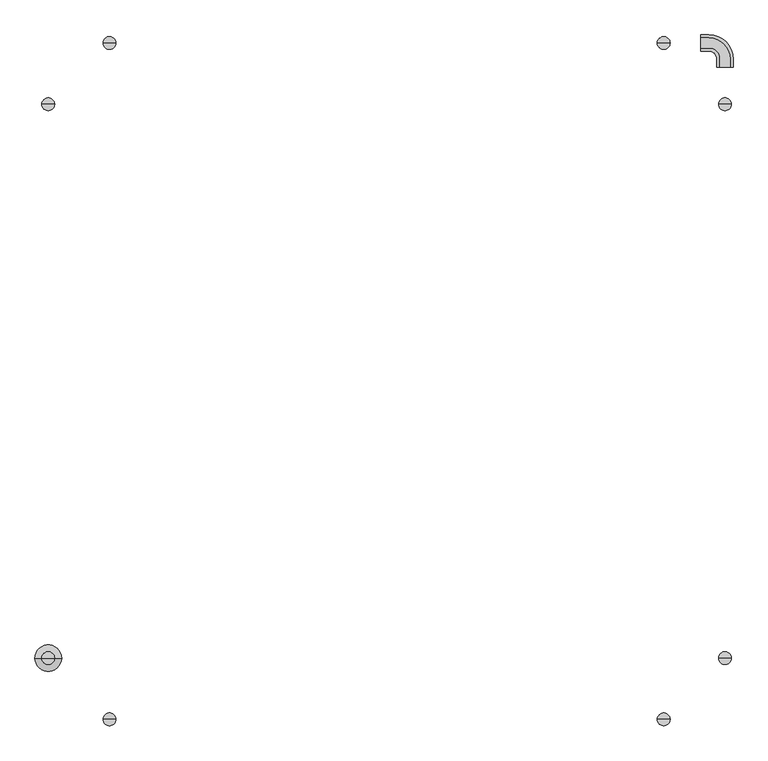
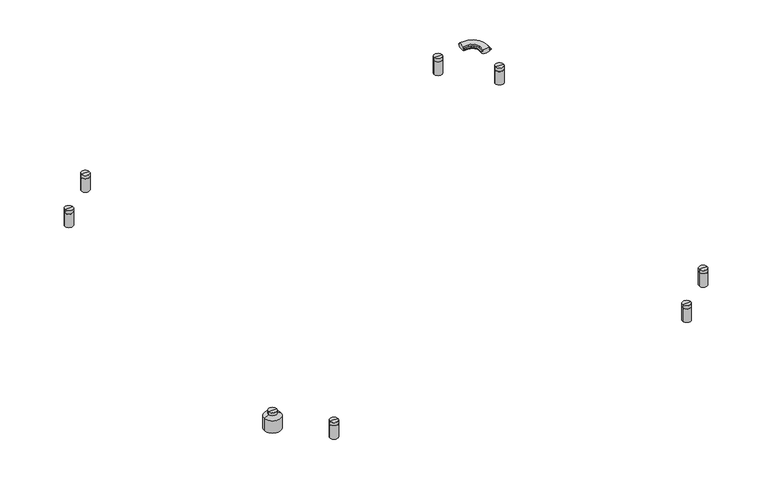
"""IFC4 building model written with IfcOpenShell, lengths in millimetres: light fixture geometry, ARTEMIDE-AoL-StandAlone-SquareRectangular_WallCeiling : StandALone_SemiRecessed_SquareRectangular-1321x1321mm 9488lm 3000K."""

from ifc_helpers import new_model, si_unit, point, frame, origin, place, context, project, spatial, polyline, circle_curve, ellipse_curve, trimmed, source, transform, mapped, element, save
from ifc_brep_helpers import plane_surface, cylinder_surface, revolved_surface, advanced_brep


def light_fixture_f52f7826(model_context):
    return source(origin(), model_context, "Body", "AdvancedBrep", [
        advanced_brep(
        [(25.0, 0.0, 54.0), (37.0, 0.0, 54.0), (13.0, 0.0, 54.0), (0.0, 0.0, 0.0), (50.0, 0.0, 0.0), (25.0, 0.0, 0.0), (0.0, 0.0, 37.5120373), (50.0, 0.0, 37.5120373), (13.0, 0.0, 44.4453706), (37.0, 0.0, 44.4453706)],
        [
            (0, 1),
            (1, 2, circle_curve(frame((25.0, 0.0, 54.0), z_axis=(0.0, 0.0, 1.0), x_axis=(1.0, 0.0, 0.0)), 12.0)),
            (2, 0),
            (2, 1, circle_curve(frame((25.0, 0.0, 54.0), z_axis=(0.0, 0.0, 1.0), x_axis=(1.0, 0.0, 0.0)), 12.0)),
            (3, 4, circle_curve(frame((25.0, 0.0, 0.0), z_axis=(0.0, 0.0, -1.0), x_axis=(1.0, 0.0, 0.0)), 25.0)),
            (4, 5),
            (5, 3),
            (4, 3, circle_curve(frame((25.0, 0.0, 0.0), z_axis=(0.0, 0.0, -1.0), x_axis=(1.0, 0.0, 0.0)), 25.0)),
            (6, 7, circle_curve(frame((25.0, 0.0, 37.5120373), z_axis=(0.0, 0.0, -1.0), x_axis=(1.0, 0.0, 0.0)), 25.0)),
            (7, 4),
            (3, 6),
            (7, 6, circle_curve(frame((25.0, 0.0, 37.5120373), z_axis=(0.0, 0.0, -1.0), x_axis=(1.0, 0.0, 0.0)), 25.0)),
            (8, 9, circle_curve(frame((25.0, 0.0, 44.4453706), z_axis=(0.0, 0.0, -1.0), x_axis=(1.0, 0.0, 0.0)), 12.0)),
            (9, 7),
            (6, 8),
            (9, 8, circle_curve(frame((25.0, 0.0, 44.4453706), z_axis=(0.0, 0.0, -1.0), x_axis=(1.0, 0.0, 0.0)), 12.0)),
            (1, 9),
            (8, 2),
        ],
        [
            plane_surface(frame((25.0, 0.0, 54.0), z_axis=(0.0, 0.0, 1.0), x_axis=(1.0, 0.0, 0.0))),
            plane_surface(frame((25.0, 0.0, 0.0), z_axis=(0.0, 0.0, -1.0), x_axis=(1.0, 0.0, 0.0))),
            cylinder_surface(frame((25.0, 0.0, -58.83358), z_axis=(0.0, 0.0, 1.0), x_axis=(1.0, 0.0, 0.0)), 25.0),
            revolved_surface(polyline([(50.0, 0.0, 37.5120373), (37.0, 0.0, 44.4453706)]), (25.0, 0.0, -58.83358), (0.0, 0.0, 1.0)),
            cylinder_surface(frame((25.0, 0.0, -58.83358), z_axis=(0.0, 0.0, 1.0), x_axis=(1.0, 0.0, 0.0)), 12.0),
        ],
        [
            (0, [[1, 2, 3]]),
            (0, [[-3, 4, -1]]),
            (1, [[5, 6, 7]]),
            (1, [[8, -7, -6]]),
            (2, [[9, 10, -5, 11]]),
            (2, [[12, -11, -8, -10]]),
            (3, [[13, 14, -9, 15]]),
            (3, [[16, -15, -12, -14]]),
            (4, [[-2, 17, -13, 18]]),
            (4, [[-4, -18, -16, -17]]),
        ],
    ),
        advanced_brep(
        [(152.0, 1156.0, 1.0), (128.0, 1156.0, 1.0), (134.5, 1156.0, 1.0), (145.5, 1156.0, 1.0), (152.0, 1156.0, 42.5), (128.0, 1156.0, 42.5), (149.5243756, 1156.0, 42.5), (130.4756244, 1156.0, 42.5), (149.5243756, 1156.0, 43.4995055), (130.4756244, 1156.0, 43.4995055), (152.0, 1156.0, 43.4995055), (128.0, 1156.0, 43.4995055), (152.0, 1156.0, 52.9579379), (128.0, 1156.0, 52.9579379), (140.0, 1156.0, 52.9579379), (145.5, 1156.0, 0.0), (134.5, 1156.0, 0.0), (140.0, 1156.0, 0.0)],
        [
            (0, 1, circle_curve(frame((140.0, 1156.0, 1.0), z_axis=(0.0, 0.0, -1.0), x_axis=(-1.0, 0.0, 0.0)), 12.0)),
            (1, 2),
            (2, 3, circle_curve(frame((140.0, 1156.0, 1.0), z_axis=(0.0, 0.0, 1.0), x_axis=(-1.0, 0.0, 0.0)), 5.5)),
            (3, 0),
            (1, 0, circle_curve(frame((140.0, 1156.0, 1.0), z_axis=(0.0, 0.0, -1.0), x_axis=(-1.0, 0.0, 0.0)), 12.0)),
            (3, 2, circle_curve(frame((140.0, 1156.0, 1.0), z_axis=(0.0, 0.0, 1.0), x_axis=(-1.0, 0.0, 0.0)), 5.5)),
            (4, 5, circle_curve(frame((140.0, 1156.0, 42.5), z_axis=(0.0, 0.0, -1.0), x_axis=(-1.0, 0.0, 0.0)), 12.0)),
            (5, 1),
            (0, 4),
            (5, 4, circle_curve(frame((140.0, 1156.0, 42.5), z_axis=(0.0, 0.0, -1.0), x_axis=(-1.0, 0.0, 0.0)), 12.0)),
            (6, 7, circle_curve(frame((140.0, 1156.0, 42.5), z_axis=(0.0, 0.0, -1.0), x_axis=(-1.0, 0.0, 0.0)), 9.5243756)),
            (7, 5),
            (4, 6),
            (7, 6, circle_curve(frame((140.0, 1156.0, 42.5), z_axis=(0.0, 0.0, -1.0), x_axis=(-1.0, 0.0, 0.0)), 9.5243756)),
            (8, 9, circle_curve(frame((140.0, 1156.0, 43.4995055), z_axis=(0.0, 0.0, -1.0), x_axis=(-1.0, 0.0, 0.0)), 9.5243756)),
            (9, 7),
            (6, 8),
            (9, 8, circle_curve(frame((140.0, 1156.0, 43.4995055), z_axis=(0.0, 0.0, -1.0), x_axis=(-1.0, 0.0, 0.0)), 9.5243756)),
            (10, 11, circle_curve(frame((140.0, 1156.0, 43.4995055), z_axis=(0.0, 0.0, -1.0), x_axis=(-1.0, 0.0, 0.0)), 12.0)),
            (11, 9),
            (8, 10),
            (11, 10, circle_curve(frame((140.0, 1156.0, 43.4995055), z_axis=(0.0, 0.0, -1.0), x_axis=(-1.0, 0.0, 0.0)), 12.0)),
            (12, 13, circle_curve(frame((140.0, 1156.0, 52.9579379), z_axis=(0.0, 0.0, -1.0), x_axis=(-1.0, 0.0, 0.0)), 12.0)),
            (13, 11),
            (10, 12),
            (13, 12, circle_curve(frame((140.0, 1156.0, 52.9579379), z_axis=(0.0, 0.0, -1.0), x_axis=(-1.0, 0.0, 0.0)), 12.0)),
            (14, 13),
            (12, 14),
            (15, 16, circle_curve(frame((140.0, 1156.0, 0.0), z_axis=(0.0, 0.0, -1.0), x_axis=(-1.0, 0.0, 0.0)), 5.5)),
            (16, 17),
            (17, 15),
            (16, 15, circle_curve(frame((140.0, 1156.0, 0.0), z_axis=(0.0, 0.0, -1.0), x_axis=(-1.0, 0.0, 0.0)), 5.5)),
            (2, 16),
            (15, 3),
        ],
        [
            plane_surface(frame((140.0, 1156.0, 1.0), z_axis=(0.0, 0.0, -1.0), x_axis=(-1.0, 0.0, 0.0))),
            cylinder_surface(frame((140.0, 1156.0, -58.83358), z_axis=(0.0, 0.0, 1.0), x_axis=(-1.0, 0.0, 0.0)), 12.0),
            plane_surface(frame((140.0, 1156.0, 42.5), z_axis=(0.0, 0.0, 1.0), x_axis=(-1.0, 0.0, 0.0))),
            cylinder_surface(frame((140.0, 1156.0, -58.83358), z_axis=(0.0, 0.0, 1.0), x_axis=(-1.0, 0.0, 0.0)), 9.5243756),
            plane_surface(frame((140.0, 1156.0, 43.4995055), z_axis=(0.0, 0.0, -1.0), x_axis=(-1.0, 0.0, 0.0))),
            plane_surface(frame((140.0, 1156.0, 52.9579379), z_axis=(0.0, 0.0, 1.0), x_axis=(-1.0, 0.0, 0.0))),
            plane_surface(frame((140.0, 1156.0, 0.0), z_axis=(0.0, 0.0, -1.0), x_axis=(-1.0, 0.0, 0.0))),
            cylinder_surface(frame((140.0, 1156.0, -58.83358), z_axis=(0.0, 0.0, 1.0), x_axis=(-1.0, 0.0, 0.0)), 5.5),
        ],
        [
            (0, [[1, 2, 3, 4]]),
            (0, [[5, -4, 6, -2]]),
            (1, [[7, 8, -1, 9]]),
            (1, [[10, -9, -5, -8]]),
            (2, [[11, 12, -7, 13]]),
            (2, [[14, -13, -10, -12]]),
            (3, [[15, 16, -11, 17]]),
            (3, [[18, -17, -14, -16]]),
            (4, [[19, 20, -15, 21]]),
            (4, [[22, -21, -18, -20]]),
            (1, [[23, 24, -19, 25]]),
            (1, [[26, -25, -22, -24]]),
            (5, [[27, -23, 28]]),
            (5, [[-28, -26, -27]]),
            (6, [[29, 30, 31]]),
            (6, [[32, -31, -30]]),
            (7, [[-3, 33, -29, 34]]),
            (7, [[-6, -34, -32, -33]]),
        ],
    ),
        advanced_brep(
        [(152.0, -115.0, 1.0), (128.0, -115.0, 1.0), (134.5, -115.0, 1.0), (145.5, -115.0, 1.0), (152.0, -115.0, 42.5), (128.0, -115.0, 42.5), (149.5243756, -115.0, 42.5), (130.4756244, -115.0, 42.5), (149.5243756, -115.0, 43.4995055), (130.4756244, -115.0, 43.4995055), (152.0, -115.0, 43.4995055), (128.0, -115.0, 43.4995055), (152.0, -115.0, 52.9579379), (128.0, -115.0, 52.9579379), (140.0, -115.0, 52.9579379), (145.5, -115.0, 0.0), (134.5, -115.0, 0.0), (140.0, -115.0, 0.0)],
        [
            (0, 1, circle_curve(frame((140.0, -115.0, 1.0), z_axis=(0.0, 0.0, -1.0), x_axis=(-1.0, 0.0, 0.0)), 12.0)),
            (1, 2),
            (2, 3, circle_curve(frame((140.0, -115.0, 1.0), z_axis=(0.0, 0.0, 1.0), x_axis=(-1.0, 0.0, 0.0)), 5.5)),
            (3, 0),
            (1, 0, circle_curve(frame((140.0, -115.0, 1.0), z_axis=(0.0, 0.0, -1.0), x_axis=(-1.0, 0.0, 0.0)), 12.0)),
            (3, 2, circle_curve(frame((140.0, -115.0, 1.0), z_axis=(0.0, 0.0, 1.0), x_axis=(-1.0, 0.0, 0.0)), 5.5)),
            (4, 5, circle_curve(frame((140.0, -115.0, 42.5), z_axis=(0.0, 0.0, -1.0), x_axis=(-1.0, 0.0, 0.0)), 12.0)),
            (5, 1),
            (0, 4),
            (5, 4, circle_curve(frame((140.0, -115.0, 42.5), z_axis=(0.0, 0.0, -1.0), x_axis=(-1.0, 0.0, 0.0)), 12.0)),
            (6, 7, circle_curve(frame((140.0, -115.0, 42.5), z_axis=(0.0, 0.0, -1.0), x_axis=(-1.0, 0.0, 0.0)), 9.5243756)),
            (7, 5),
            (4, 6),
            (7, 6, circle_curve(frame((140.0, -115.0, 42.5), z_axis=(0.0, 0.0, -1.0), x_axis=(-1.0, 0.0, 0.0)), 9.5243756)),
            (8, 9, circle_curve(frame((140.0, -115.0, 43.4995055), z_axis=(0.0, 0.0, -1.0), x_axis=(-1.0, 0.0, 0.0)), 9.5243756)),
            (9, 7),
            (6, 8),
            (9, 8, circle_curve(frame((140.0, -115.0, 43.4995055), z_axis=(0.0, 0.0, -1.0), x_axis=(-1.0, 0.0, 0.0)), 9.5243756)),
            (10, 11, circle_curve(frame((140.0, -115.0, 43.4995055), z_axis=(0.0, 0.0, -1.0), x_axis=(-1.0, 0.0, 0.0)), 12.0)),
            (11, 9),
            (8, 10),
            (11, 10, circle_curve(frame((140.0, -115.0, 43.4995055), z_axis=(0.0, 0.0, -1.0), x_axis=(-1.0, 0.0, 0.0)), 12.0)),
            (12, 13, circle_curve(frame((140.0, -115.0, 52.9579379), z_axis=(0.0, 0.0, -1.0), x_axis=(-1.0, 0.0, 0.0)), 12.0)),
            (13, 11),
            (10, 12),
            (13, 12, circle_curve(frame((140.0, -115.0, 52.9579379), z_axis=(0.0, 0.0, -1.0), x_axis=(-1.0, 0.0, 0.0)), 12.0)),
            (14, 13),
            (12, 14),
            (15, 16, circle_curve(frame((140.0, -115.0, 0.0), z_axis=(0.0, 0.0, -1.0), x_axis=(-1.0, 0.0, 0.0)), 5.5)),
            (16, 17),
            (17, 15),
            (16, 15, circle_curve(frame((140.0, -115.0, 0.0), z_axis=(0.0, 0.0, -1.0), x_axis=(-1.0, 0.0, 0.0)), 5.5)),
            (2, 16),
            (15, 3),
        ],
        [
            plane_surface(frame((140.0, -115.0, 1.0), z_axis=(0.0, 0.0, -1.0), x_axis=(-1.0, 0.0, 0.0))),
            cylinder_surface(frame((140.0, -115.0, -58.83358), z_axis=(0.0, 0.0, 1.0), x_axis=(-1.0, 0.0, 0.0)), 12.0),
            plane_surface(frame((140.0, -115.0, 42.5), z_axis=(0.0, 0.0, 1.0), x_axis=(-1.0, 0.0, 0.0))),
            cylinder_surface(frame((140.0, -115.0, -58.83358), z_axis=(0.0, 0.0, 1.0), x_axis=(-1.0, 0.0, 0.0)), 9.5243756),
            plane_surface(frame((140.0, -115.0, 43.4995055), z_axis=(0.0, 0.0, -1.0), x_axis=(-1.0, 0.0, 0.0))),
            plane_surface(frame((140.0, -115.0, 52.9579379), z_axis=(0.0, 0.0, 1.0), x_axis=(-1.0, 0.0, 0.0))),
            plane_surface(frame((140.0, -115.0, 0.0), z_axis=(0.0, 0.0, -1.0), x_axis=(-1.0, 0.0, 0.0))),
            cylinder_surface(frame((140.0, -115.0, -58.83358), z_axis=(0.0, 0.0, 1.0), x_axis=(-1.0, 0.0, 0.0)), 5.5),
        ],
        [
            (0, [[1, 2, 3, 4]]),
            (0, [[5, -4, 6, -2]]),
            (1, [[7, 8, -1, 9]]),
            (1, [[10, -9, -5, -8]]),
            (2, [[11, 12, -7, 13]]),
            (2, [[14, -13, -10, -12]]),
            (3, [[15, 16, -11, 17]]),
            (3, [[18, -17, -14, -16]]),
            (4, [[19, 20, -15, 21]]),
            (4, [[22, -21, -18, -20]]),
            (1, [[23, 24, -19, 25]]),
            (1, [[26, -25, -22, -24]]),
            (5, [[27, -23, 28]]),
            (5, [[-28, -26, -27]]),
            (6, [[29, 30, 31]]),
            (6, [[32, -31, -30]]),
            (7, [[-3, 33, -29, 34]]),
            (7, [[-6, -34, -32, -33]]),
        ],
    ),
        advanced_brep(
        [(1193.0, 1156.0, 1.0), (1169.0, 1156.0, 1.0), (1175.5, 1156.0, 1.0), (1186.5, 1156.0, 1.0), (1193.0, 1156.0, 42.5), (1169.0, 1156.0, 42.5), (1190.5243756, 1156.0, 42.5), (1171.4756244, 1156.0, 42.5), (1190.5243756, 1156.0, 43.4995055), (1171.4756244, 1156.0, 43.4995055), (1193.0, 1156.0, 43.4995055), (1169.0, 1156.0, 43.4995055), (1193.0, 1156.0, 52.9579379), (1169.0, 1156.0, 52.9579379), (1181.0, 1156.0, 52.9579379), (1186.5, 1156.0, 0.0), (1175.5, 1156.0, 0.0), (1181.0, 1156.0, 0.0)],
        [
            (0, 1, circle_curve(frame((1181.0, 1156.0, 1.0), z_axis=(0.0, 0.0, -1.0), x_axis=(-1.0, 0.0, 0.0)), 12.0)),
            (1, 2),
            (2, 3, circle_curve(frame((1181.0, 1156.0, 1.0), z_axis=(0.0, 0.0, 1.0), x_axis=(-1.0, 0.0, 0.0)), 5.5)),
            (3, 0),
            (1, 0, circle_curve(frame((1181.0, 1156.0, 1.0), z_axis=(0.0, 0.0, -1.0), x_axis=(-1.0, 0.0, 0.0)), 12.0)),
            (3, 2, circle_curve(frame((1181.0, 1156.0, 1.0), z_axis=(0.0, 0.0, 1.0), x_axis=(-1.0, 0.0, 0.0)), 5.5)),
            (4, 5, circle_curve(frame((1181.0, 1156.0, 42.5), z_axis=(0.0, 0.0, -1.0), x_axis=(-1.0, 0.0, 0.0)), 12.0)),
            (5, 1),
            (0, 4),
            (5, 4, circle_curve(frame((1181.0, 1156.0, 42.5), z_axis=(0.0, 0.0, -1.0), x_axis=(-1.0, 0.0, 0.0)), 12.0)),
            (6, 7, circle_curve(frame((1181.0, 1156.0, 42.5), z_axis=(0.0, 0.0, -1.0), x_axis=(-1.0, 0.0, 0.0)), 9.5243756)),
            (7, 5),
            (4, 6),
            (7, 6, circle_curve(frame((1181.0, 1156.0, 42.5), z_axis=(0.0, 0.0, -1.0), x_axis=(-1.0, 0.0, 0.0)), 9.5243756)),
            (8, 9, circle_curve(frame((1181.0, 1156.0, 43.4995055), z_axis=(0.0, 0.0, -1.0), x_axis=(-1.0, 0.0, 0.0)), 9.5243756)),
            (9, 7),
            (6, 8),
            (9, 8, circle_curve(frame((1181.0, 1156.0, 43.4995055), z_axis=(0.0, 0.0, -1.0), x_axis=(-1.0, 0.0, 0.0)), 9.5243756)),
            (10, 11, circle_curve(frame((1181.0, 1156.0, 43.4995055), z_axis=(0.0, 0.0, -1.0), x_axis=(-1.0, 0.0, 0.0)), 12.0)),
            (11, 9),
            (8, 10),
            (11, 10, circle_curve(frame((1181.0, 1156.0, 43.4995055), z_axis=(0.0, 0.0, -1.0), x_axis=(-1.0, 0.0, 0.0)), 12.0)),
            (12, 13, circle_curve(frame((1181.0, 1156.0, 52.9579379), z_axis=(0.0, 0.0, -1.0), x_axis=(-1.0, 0.0, 0.0)), 12.0)),
            (13, 11),
            (10, 12),
            (13, 12, circle_curve(frame((1181.0, 1156.0, 52.9579379), z_axis=(0.0, 0.0, -1.0), x_axis=(-1.0, 0.0, 0.0)), 12.0)),
            (14, 13),
            (12, 14),
            (15, 16, circle_curve(frame((1181.0, 1156.0, 0.0), z_axis=(0.0, 0.0, -1.0), x_axis=(-1.0, 0.0, 0.0)), 5.5)),
            (16, 17),
            (17, 15),
            (16, 15, circle_curve(frame((1181.0, 1156.0, 0.0), z_axis=(0.0, 0.0, -1.0), x_axis=(-1.0, 0.0, 0.0)), 5.5)),
            (2, 16),
            (15, 3),
        ],
        [
            plane_surface(frame((1181.0, 1156.0, 1.0), z_axis=(0.0, 0.0, -1.0), x_axis=(-1.0, 0.0, 0.0))),
            cylinder_surface(frame((1181.0, 1156.0, -58.83358), z_axis=(0.0, 0.0, 1.0), x_axis=(-1.0, 0.0, 0.0)), 12.0),
            plane_surface(frame((1181.0, 1156.0, 42.5), z_axis=(0.0, 0.0, 1.0), x_axis=(-1.0, 0.0, 0.0))),
            cylinder_surface(frame((1181.0, 1156.0, -58.83358), z_axis=(0.0, 0.0, 1.0), x_axis=(-1.0, 0.0, 0.0)), 9.5243756),
            plane_surface(frame((1181.0, 1156.0, 43.4995055), z_axis=(0.0, 0.0, -1.0), x_axis=(-1.0, 0.0, 0.0))),
            plane_surface(frame((1181.0, 1156.0, 52.9579379), z_axis=(0.0, 0.0, 1.0), x_axis=(-1.0, 0.0, 0.0))),
            plane_surface(frame((1181.0, 1156.0, 0.0), z_axis=(0.0, 0.0, -1.0), x_axis=(-1.0, 0.0, 0.0))),
            cylinder_surface(frame((1181.0, 1156.0, -58.83358), z_axis=(0.0, 0.0, 1.0), x_axis=(-1.0, 0.0, 0.0)), 5.5),
        ],
        [
            (0, [[1, 2, 3, 4]]),
            (0, [[5, -4, 6, -2]]),
            (1, [[7, 8, -1, 9]]),
            (1, [[10, -9, -5, -8]]),
            (2, [[11, 12, -7, 13]]),
            (2, [[14, -13, -10, -12]]),
            (3, [[15, 16, -11, 17]]),
            (3, [[18, -17, -14, -16]]),
            (4, [[19, 20, -15, 21]]),
            (4, [[22, -21, -18, -20]]),
            (1, [[23, 24, -19, 25]]),
            (1, [[26, -25, -22, -24]]),
            (5, [[27, -23, 28]]),
            (5, [[-28, -26, -27]]),
            (6, [[29, 30, 31]]),
            (6, [[32, -31, -30]]),
            (7, [[-3, 33, -29, 34]]),
            (7, [[-6, -34, -32, -33]]),
        ],
    ),
        advanced_brep(
        [(1193.0, -115.0, 1.0), (1169.0, -115.0, 1.0), (1175.5, -115.0, 1.0), (1186.5, -115.0, 1.0), (1193.0, -115.0, 42.5), (1169.0, -115.0, 42.5), (1190.5243756, -115.0, 42.5), (1171.4756244, -115.0, 42.5), (1190.5243756, -115.0, 43.4995055), (1171.4756244, -115.0, 43.4995055), (1193.0, -115.0, 43.4995055), (1169.0, -115.0, 43.4995055), (1193.0, -115.0, 52.9579379), (1169.0, -115.0, 52.9579379), (1181.0, -115.0, 52.9579379), (1186.5, -115.0, 0.0), (1175.5, -115.0, 0.0), (1181.0, -115.0, 0.0)],
        [
            (0, 1, circle_curve(frame((1181.0, -115.0, 1.0), z_axis=(0.0, 0.0, -1.0), x_axis=(-1.0, 0.0, 0.0)), 12.0)),
            (1, 2),
            (2, 3, circle_curve(frame((1181.0, -115.0, 1.0), z_axis=(0.0, 0.0, 1.0), x_axis=(-1.0, 0.0, 0.0)), 5.5)),
            (3, 0),
            (1, 0, circle_curve(frame((1181.0, -115.0, 1.0), z_axis=(0.0, 0.0, -1.0), x_axis=(-1.0, 0.0, 0.0)), 12.0)),
            (3, 2, circle_curve(frame((1181.0, -115.0, 1.0), z_axis=(0.0, 0.0, 1.0), x_axis=(-1.0, 0.0, 0.0)), 5.5)),
            (4, 5, circle_curve(frame((1181.0, -115.0, 42.5), z_axis=(0.0, 0.0, -1.0), x_axis=(-1.0, 0.0, 0.0)), 12.0)),
            (5, 1),
            (0, 4),
            (5, 4, circle_curve(frame((1181.0, -115.0, 42.5), z_axis=(0.0, 0.0, -1.0), x_axis=(-1.0, 0.0, 0.0)), 12.0)),
            (6, 7, circle_curve(frame((1181.0, -115.0, 42.5), z_axis=(0.0, 0.0, -1.0), x_axis=(-1.0, 0.0, 0.0)), 9.5243756)),
            (7, 5),
            (4, 6),
            (7, 6, circle_curve(frame((1181.0, -115.0, 42.5), z_axis=(0.0, 0.0, -1.0), x_axis=(-1.0, 0.0, 0.0)), 9.5243756)),
            (8, 9, circle_curve(frame((1181.0, -115.0, 43.4995055), z_axis=(0.0, 0.0, -1.0), x_axis=(-1.0, 0.0, 0.0)), 9.5243756)),
            (9, 7),
            (6, 8),
            (9, 8, circle_curve(frame((1181.0, -115.0, 43.4995055), z_axis=(0.0, 0.0, -1.0), x_axis=(-1.0, 0.0, 0.0)), 9.5243756)),
            (10, 11, circle_curve(frame((1181.0, -115.0, 43.4995055), z_axis=(0.0, 0.0, -1.0), x_axis=(-1.0, 0.0, 0.0)), 12.0)),
            (11, 9),
            (8, 10),
            (11, 10, circle_curve(frame((1181.0, -115.0, 43.4995055), z_axis=(0.0, 0.0, -1.0), x_axis=(-1.0, 0.0, 0.0)), 12.0)),
            (12, 13, circle_curve(frame((1181.0, -115.0, 52.9579379), z_axis=(0.0, 0.0, -1.0), x_axis=(-1.0, 0.0, 0.0)), 12.0)),
            (13, 11),
            (10, 12),
            (13, 12, circle_curve(frame((1181.0, -115.0, 52.9579379), z_axis=(0.0, 0.0, -1.0), x_axis=(-1.0, 0.0, 0.0)), 12.0)),
            (14, 13),
            (12, 14),
            (15, 16, circle_curve(frame((1181.0, -115.0, 0.0), z_axis=(0.0, 0.0, -1.0), x_axis=(-1.0, 0.0, 0.0)), 5.5)),
            (16, 17),
            (17, 15),
            (16, 15, circle_curve(frame((1181.0, -115.0, 0.0), z_axis=(0.0, 0.0, -1.0), x_axis=(-1.0, 0.0, 0.0)), 5.5)),
            (2, 16),
            (15, 3),
        ],
        [
            plane_surface(frame((1181.0, -115.0, 1.0), z_axis=(0.0, 0.0, -1.0), x_axis=(-1.0, 0.0, 0.0))),
            cylinder_surface(frame((1181.0, -115.0, -58.83358), z_axis=(0.0, 0.0, 1.0), x_axis=(-1.0, 0.0, 0.0)), 12.0),
            plane_surface(frame((1181.0, -115.0, 42.5), z_axis=(0.0, 0.0, 1.0), x_axis=(-1.0, 0.0, 0.0))),
            cylinder_surface(frame((1181.0, -115.0, -58.83358), z_axis=(0.0, 0.0, 1.0), x_axis=(-1.0, 0.0, 0.0)), 9.5243756),
            plane_surface(frame((1181.0, -115.0, 43.4995055), z_axis=(0.0, 0.0, -1.0), x_axis=(-1.0, 0.0, 0.0))),
            plane_surface(frame((1181.0, -115.0, 52.9579379), z_axis=(0.0, 0.0, 1.0), x_axis=(-1.0, 0.0, 0.0))),
            plane_surface(frame((1181.0, -115.0, 0.0), z_axis=(0.0, 0.0, -1.0), x_axis=(-1.0, 0.0, 0.0))),
            cylinder_surface(frame((1181.0, -115.0, -58.83358), z_axis=(0.0, 0.0, 1.0), x_axis=(-1.0, 0.0, 0.0)), 5.5),
        ],
        [
            (0, [[1, 2, 3, 4]]),
            (0, [[5, -4, 6, -2]]),
            (1, [[7, 8, -1, 9]]),
            (1, [[10, -9, -5, -8]]),
            (2, [[11, 12, -7, 13]]),
            (2, [[14, -13, -10, -12]]),
            (3, [[15, 16, -11, 17]]),
            (3, [[18, -17, -14, -16]]),
            (4, [[19, 20, -15, 21]]),
            (4, [[22, -21, -18, -20]]),
            (1, [[23, 24, -19, 25]]),
            (1, [[26, -25, -22, -24]]),
            (5, [[27, -23, 28]]),
            (5, [[-28, -26, -27]]),
            (6, [[29, 30, 31]]),
            (6, [[32, -31, -30]]),
            (7, [[-3, 33, -29, 34]]),
            (7, [[-6, -34, -32, -33]]),
        ],
    ),
        advanced_brep(
        [(37.0, 1041.0, 1.0), (13.0, 1041.0, 1.0), (19.5, 1041.0, 1.0), (30.5, 1041.0, 1.0), (37.0, 1041.0, 42.5), (13.0, 1041.0, 42.5), (34.5243756, 1041.0, 42.5), (15.4756244, 1041.0, 42.5), (34.5243756, 1041.0, 43.4995055), (15.4756244, 1041.0, 43.4995055), (37.0, 1041.0, 43.4995055), (13.0, 1041.0, 43.4995055), (37.0, 1041.0, 52.9579379), (13.0, 1041.0, 52.9579379), (25.0, 1041.0, 52.9579379), (30.5, 1041.0, 0.0), (19.5, 1041.0, 0.0), (25.0, 1041.0, 0.0)],
        [
            (0, 1, circle_curve(frame((25.0, 1041.0, 1.0), z_axis=(0.0, 0.0, -1.0), x_axis=(-1.0, 0.0, 0.0)), 12.0)),
            (1, 2),
            (2, 3, circle_curve(frame((25.0, 1041.0, 1.0), z_axis=(0.0, 0.0, 1.0), x_axis=(-1.0, 0.0, 0.0)), 5.5)),
            (3, 0),
            (1, 0, circle_curve(frame((25.0, 1041.0, 1.0), z_axis=(0.0, 0.0, -1.0), x_axis=(-1.0, 0.0, 0.0)), 12.0)),
            (3, 2, circle_curve(frame((25.0, 1041.0, 1.0), z_axis=(0.0, 0.0, 1.0), x_axis=(-1.0, 0.0, 0.0)), 5.5)),
            (4, 5, circle_curve(frame((25.0, 1041.0, 42.5), z_axis=(0.0, 0.0, -1.0), x_axis=(-1.0, 0.0, 0.0)), 12.0)),
            (5, 1),
            (0, 4),
            (5, 4, circle_curve(frame((25.0, 1041.0, 42.5), z_axis=(0.0, 0.0, -1.0), x_axis=(-1.0, 0.0, 0.0)), 12.0)),
            (6, 7, circle_curve(frame((25.0, 1041.0, 42.5), z_axis=(0.0, 0.0, -1.0), x_axis=(-1.0, 0.0, 0.0)), 9.5243756)),
            (7, 5),
            (4, 6),
            (7, 6, circle_curve(frame((25.0, 1041.0, 42.5), z_axis=(0.0, 0.0, -1.0), x_axis=(-1.0, 0.0, 0.0)), 9.5243756)),
            (8, 9, circle_curve(frame((25.0, 1041.0, 43.4995055), z_axis=(0.0, 0.0, -1.0), x_axis=(-1.0, 0.0, 0.0)), 9.5243756)),
            (9, 7),
            (6, 8),
            (9, 8, circle_curve(frame((25.0, 1041.0, 43.4995055), z_axis=(0.0, 0.0, -1.0), x_axis=(-1.0, 0.0, 0.0)), 9.5243756)),
            (10, 11, circle_curve(frame((25.0, 1041.0, 43.4995055), z_axis=(0.0, 0.0, -1.0), x_axis=(-1.0, 0.0, 0.0)), 12.0)),
            (11, 9),
            (8, 10),
            (11, 10, circle_curve(frame((25.0, 1041.0, 43.4995055), z_axis=(0.0, 0.0, -1.0), x_axis=(-1.0, 0.0, 0.0)), 12.0)),
            (12, 13, circle_curve(frame((25.0, 1041.0, 52.9579379), z_axis=(0.0, 0.0, -1.0), x_axis=(-1.0, 0.0, 0.0)), 12.0)),
            (13, 11),
            (10, 12),
            (13, 12, circle_curve(frame((25.0, 1041.0, 52.9579379), z_axis=(0.0, 0.0, -1.0), x_axis=(-1.0, 0.0, 0.0)), 12.0)),
            (14, 13),
            (12, 14),
            (15, 16, circle_curve(frame((25.0, 1041.0, 0.0), z_axis=(0.0, 0.0, -1.0), x_axis=(-1.0, 0.0, 0.0)), 5.5)),
            (16, 17),
            (17, 15),
            (16, 15, circle_curve(frame((25.0, 1041.0, 0.0), z_axis=(0.0, 0.0, -1.0), x_axis=(-1.0, 0.0, 0.0)), 5.5)),
            (2, 16),
            (15, 3),
        ],
        [
            plane_surface(frame((25.0, 1041.0, 1.0), z_axis=(0.0, 0.0, -1.0), x_axis=(-1.0, 0.0, 0.0))),
            cylinder_surface(frame((25.0, 1041.0, -58.83358), z_axis=(0.0, 0.0, 1.0), x_axis=(-1.0, 0.0, 0.0)), 12.0),
            plane_surface(frame((25.0, 1041.0, 42.5), z_axis=(0.0, 0.0, 1.0), x_axis=(-1.0, 0.0, 0.0))),
            cylinder_surface(frame((25.0, 1041.0, -58.83358), z_axis=(0.0, 0.0, 1.0), x_axis=(-1.0, 0.0, 0.0)), 9.5243756),
            plane_surface(frame((25.0, 1041.0, 43.4995055), z_axis=(0.0, 0.0, -1.0), x_axis=(-1.0, 0.0, 0.0))),
            plane_surface(frame((25.0, 1041.0, 52.9579379), z_axis=(0.0, 0.0, 1.0), x_axis=(-1.0, 0.0, 0.0))),
            plane_surface(frame((25.0, 1041.0, 0.0), z_axis=(0.0, 0.0, -1.0), x_axis=(-1.0, 0.0, 0.0))),
            cylinder_surface(frame((25.0, 1041.0, -58.83358), z_axis=(0.0, 0.0, 1.0), x_axis=(-1.0, 0.0, 0.0)), 5.5),
        ],
        [
            (0, [[1, 2, 3, 4]]),
            (0, [[5, -4, 6, -2]]),
            (1, [[7, 8, -1, 9]]),
            (1, [[10, -9, -5, -8]]),
            (2, [[11, 12, -7, 13]]),
            (2, [[14, -13, -10, -12]]),
            (3, [[15, 16, -11, 17]]),
            (3, [[18, -17, -14, -16]]),
            (4, [[19, 20, -15, 21]]),
            (4, [[22, -21, -18, -20]]),
            (1, [[23, 24, -19, 25]]),
            (1, [[26, -25, -22, -24]]),
            (5, [[27, -23, 28]]),
            (5, [[-28, -26, -27]]),
            (6, [[29, 30, 31]]),
            (6, [[32, -31, -30]]),
            (7, [[-3, 33, -29, 34]]),
            (7, [[-6, -34, -32, -33]]),
        ],
    ),
        advanced_brep(
        [(1308.0, 1041.0, 1.0), (1284.0, 1041.0, 1.0), (1290.5, 1041.0, 1.0), (1301.5, 1041.0, 1.0), (1308.0, 1041.0, 42.5), (1284.0, 1041.0, 42.5), (1305.5243756, 1041.0, 42.5), (1286.4756244, 1041.0, 42.5), (1305.5243756, 1041.0, 43.4995055), (1286.4756244, 1041.0, 43.4995055), (1308.0, 1041.0, 43.4995055), (1284.0, 1041.0, 43.4995055), (1308.0, 1041.0, 52.9579379), (1284.0, 1041.0, 52.9579379), (1296.0, 1041.0, 52.9579379), (1301.5, 1041.0, 0.0), (1290.5, 1041.0, 0.0), (1296.0, 1041.0, 0.0)],
        [
            (0, 1, circle_curve(frame((1296.0, 1041.0, 1.0), z_axis=(0.0, 0.0, -1.0), x_axis=(-1.0, 0.0, 0.0)), 12.0)),
            (1, 2),
            (2, 3, circle_curve(frame((1296.0, 1041.0, 1.0), z_axis=(0.0, 0.0, 1.0), x_axis=(-1.0, 0.0, 0.0)), 5.5)),
            (3, 0),
            (1, 0, circle_curve(frame((1296.0, 1041.0, 1.0), z_axis=(0.0, 0.0, -1.0), x_axis=(-1.0, 0.0, 0.0)), 12.0)),
            (3, 2, circle_curve(frame((1296.0, 1041.0, 1.0), z_axis=(0.0, 0.0, 1.0), x_axis=(-1.0, 0.0, 0.0)), 5.5)),
            (4, 5, circle_curve(frame((1296.0, 1041.0, 42.5), z_axis=(0.0, 0.0, -1.0), x_axis=(-1.0, 0.0, 0.0)), 12.0)),
            (5, 1),
            (0, 4),
            (5, 4, circle_curve(frame((1296.0, 1041.0, 42.5), z_axis=(0.0, 0.0, -1.0), x_axis=(-1.0, 0.0, 0.0)), 12.0)),
            (6, 7, circle_curve(frame((1296.0, 1041.0, 42.5), z_axis=(0.0, 0.0, -1.0), x_axis=(-1.0, 0.0, 0.0)), 9.5243756)),
            (7, 5),
            (4, 6),
            (7, 6, circle_curve(frame((1296.0, 1041.0, 42.5), z_axis=(0.0, 0.0, -1.0), x_axis=(-1.0, 0.0, 0.0)), 9.5243756)),
            (8, 9, circle_curve(frame((1296.0, 1041.0, 43.4995055), z_axis=(0.0, 0.0, -1.0), x_axis=(-1.0, 0.0, 0.0)), 9.5243756)),
            (9, 7),
            (6, 8),
            (9, 8, circle_curve(frame((1296.0, 1041.0, 43.4995055), z_axis=(0.0, 0.0, -1.0), x_axis=(-1.0, 0.0, 0.0)), 9.5243756)),
            (10, 11, circle_curve(frame((1296.0, 1041.0, 43.4995055), z_axis=(0.0, 0.0, -1.0), x_axis=(-1.0, 0.0, 0.0)), 12.0)),
            (11, 9),
            (8, 10),
            (11, 10, circle_curve(frame((1296.0, 1041.0, 43.4995055), z_axis=(0.0, 0.0, -1.0), x_axis=(-1.0, 0.0, 0.0)), 12.0)),
            (12, 13, circle_curve(frame((1296.0, 1041.0, 52.9579379), z_axis=(0.0, 0.0, -1.0), x_axis=(-1.0, 0.0, 0.0)), 12.0)),
            (13, 11),
            (10, 12),
            (13, 12, circle_curve(frame((1296.0, 1041.0, 52.9579379), z_axis=(0.0, 0.0, -1.0), x_axis=(-1.0, 0.0, 0.0)), 12.0)),
            (14, 13),
            (12, 14),
            (15, 16, circle_curve(frame((1296.0, 1041.0, 0.0), z_axis=(0.0, 0.0, -1.0), x_axis=(-1.0, 0.0, 0.0)), 5.5)),
            (16, 17),
            (17, 15),
            (16, 15, circle_curve(frame((1296.0, 1041.0, 0.0), z_axis=(0.0, 0.0, -1.0), x_axis=(-1.0, 0.0, 0.0)), 5.5)),
            (2, 16),
            (15, 3),
        ],
        [
            plane_surface(frame((1296.0, 1041.0, 1.0), z_axis=(0.0, 0.0, -1.0), x_axis=(-1.0, 0.0, 0.0))),
            cylinder_surface(frame((1296.0, 1041.0, -58.83358), z_axis=(0.0, 0.0, 1.0), x_axis=(-1.0, 0.0, 0.0)), 12.0),
            plane_surface(frame((1296.0, 1041.0, 42.5), z_axis=(0.0, 0.0, 1.0), x_axis=(-1.0, 0.0, 0.0))),
            cylinder_surface(frame((1296.0, 1041.0, -58.83358), z_axis=(0.0, 0.0, 1.0), x_axis=(-1.0, 0.0, 0.0)), 9.5243756),
            plane_surface(frame((1296.0, 1041.0, 43.4995055), z_axis=(0.0, 0.0, -1.0), x_axis=(-1.0, 0.0, 0.0))),
            plane_surface(frame((1296.0, 1041.0, 52.9579379), z_axis=(0.0, 0.0, 1.0), x_axis=(-1.0, 0.0, 0.0))),
            plane_surface(frame((1296.0, 1041.0, 0.0), z_axis=(0.0, 0.0, -1.0), x_axis=(-1.0, 0.0, 0.0))),
            cylinder_surface(frame((1296.0, 1041.0, -58.83358), z_axis=(0.0, 0.0, 1.0), x_axis=(-1.0, 0.0, 0.0)), 5.5),
        ],
        [
            (0, [[1, 2, 3, 4]]),
            (0, [[5, -4, 6, -2]]),
            (1, [[7, 8, -1, 9]]),
            (1, [[10, -9, -5, -8]]),
            (2, [[11, 12, -7, 13]]),
            (2, [[14, -13, -10, -12]]),
            (3, [[15, 16, -11, 17]]),
            (3, [[18, -17, -14, -16]]),
            (4, [[19, 20, -15, 21]]),
            (4, [[22, -21, -18, -20]]),
            (1, [[23, 24, -19, 25]]),
            (1, [[26, -25, -22, -24]]),
            (5, [[27, -23, 28]]),
            (5, [[-28, -26, -27]]),
            (6, [[29, 30, 31]]),
            (6, [[32, -31, -30]]),
            (7, [[-3, 33, -29, 34]]),
            (7, [[-6, -34, -32, -33]]),
        ],
    ),
        advanced_brep(
        [(37.0, 0.0, 1.0), (13.0, 0.0, 1.0), (19.5, 0.0, 1.0), (30.5, 0.0, 1.0), (37.0, 0.0, 42.5), (13.0, 0.0, 42.5), (34.5243756, 0.0, 42.5), (15.4756244, 0.0, 42.5), (34.5243756, 0.0, 43.4995055), (15.4756244, 0.0, 43.4995055), (37.0, 0.0, 43.4995055), (13.0, 0.0, 43.4995055), (37.0, 0.0, 52.9579379), (13.0, 0.0, 52.9579379), (25.0, 0.0, 52.9579379), (30.5, 0.0, 0.0), (19.5, 0.0, 0.0), (25.0, 0.0, 0.0)],
        [
            (0, 1, circle_curve(frame((25.0, 0.0, 1.0), z_axis=(0.0, 0.0, -1.0), x_axis=(-1.0, 0.0, 0.0)), 12.0)),
            (1, 2),
            (2, 3, circle_curve(frame((25.0, 0.0, 1.0), z_axis=(0.0, 0.0, 1.0), x_axis=(-1.0, 0.0, 0.0)), 5.5)),
            (3, 0),
            (1, 0, circle_curve(frame((25.0, 0.0, 1.0), z_axis=(0.0, 0.0, -1.0), x_axis=(-1.0, 0.0, 0.0)), 12.0)),
            (3, 2, circle_curve(frame((25.0, 0.0, 1.0), z_axis=(0.0, 0.0, 1.0), x_axis=(-1.0, 0.0, 0.0)), 5.5)),
            (4, 5, circle_curve(frame((25.0, 0.0, 42.5), z_axis=(0.0, 0.0, -1.0), x_axis=(-1.0, 0.0, 0.0)), 12.0)),
            (5, 1),
            (0, 4),
            (5, 4, circle_curve(frame((25.0, 0.0, 42.5), z_axis=(0.0, 0.0, -1.0), x_axis=(-1.0, 0.0, 0.0)), 12.0)),
            (6, 7, circle_curve(frame((25.0, 0.0, 42.5), z_axis=(0.0, 0.0, -1.0), x_axis=(-1.0, 0.0, 0.0)), 9.5243756)),
            (7, 5),
            (4, 6),
            (7, 6, circle_curve(frame((25.0, 0.0, 42.5), z_axis=(0.0, 0.0, -1.0), x_axis=(-1.0, 0.0, 0.0)), 9.5243756)),
            (8, 9, circle_curve(frame((25.0, 0.0, 43.4995055), z_axis=(0.0, 0.0, -1.0), x_axis=(-1.0, 0.0, 0.0)), 9.5243756)),
            (9, 7),
            (6, 8),
            (9, 8, circle_curve(frame((25.0, 0.0, 43.4995055), z_axis=(0.0, 0.0, -1.0), x_axis=(-1.0, 0.0, 0.0)), 9.5243756)),
            (10, 11, circle_curve(frame((25.0, 0.0, 43.4995055), z_axis=(0.0, 0.0, -1.0), x_axis=(-1.0, 0.0, 0.0)), 12.0)),
            (11, 9),
            (8, 10),
            (11, 10, circle_curve(frame((25.0, 0.0, 43.4995055), z_axis=(0.0, 0.0, -1.0), x_axis=(-1.0, 0.0, 0.0)), 12.0)),
            (12, 13, circle_curve(frame((25.0, 0.0, 52.9579379), z_axis=(0.0, 0.0, -1.0), x_axis=(-1.0, 0.0, 0.0)), 12.0)),
            (13, 11),
            (10, 12),
            (13, 12, circle_curve(frame((25.0, 0.0, 52.9579379), z_axis=(0.0, 0.0, -1.0), x_axis=(-1.0, 0.0, 0.0)), 12.0)),
            (14, 13),
            (12, 14),
            (15, 16, circle_curve(frame((25.0, 0.0, 0.0), z_axis=(0.0, 0.0, -1.0), x_axis=(-1.0, 0.0, 0.0)), 5.5)),
            (16, 17),
            (17, 15),
            (16, 15, circle_curve(frame((25.0, 0.0, 0.0), z_axis=(0.0, 0.0, -1.0), x_axis=(-1.0, 0.0, 0.0)), 5.5)),
            (2, 16),
            (15, 3),
        ],
        [
            plane_surface(frame((25.0, 0.0, 1.0), z_axis=(0.0, 0.0, -1.0), x_axis=(-1.0, 0.0, 0.0))),
            cylinder_surface(frame((25.0, 0.0, -58.83358), z_axis=(0.0, 0.0, 1.0), x_axis=(-1.0, 0.0, 0.0)), 12.0),
            plane_surface(frame((25.0, 0.0, 42.5), z_axis=(0.0, 0.0, 1.0), x_axis=(-1.0, 0.0, 0.0))),
            cylinder_surface(frame((25.0, 0.0, -58.83358), z_axis=(0.0, 0.0, 1.0), x_axis=(-1.0, 0.0, 0.0)), 9.5243756),
            plane_surface(frame((25.0, 0.0, 43.4995055), z_axis=(0.0, 0.0, -1.0), x_axis=(-1.0, 0.0, 0.0))),
            plane_surface(frame((25.0, 0.0, 52.9579379), z_axis=(0.0, 0.0, 1.0), x_axis=(-1.0, 0.0, 0.0))),
            plane_surface(frame((25.0, 0.0, 0.0), z_axis=(0.0, 0.0, -1.0), x_axis=(-1.0, 0.0, 0.0))),
            cylinder_surface(frame((25.0, 0.0, -58.83358), z_axis=(0.0, 0.0, 1.0), x_axis=(-1.0, 0.0, 0.0)), 5.5),
        ],
        [
            (0, [[1, 2, 3, 4]]),
            (0, [[5, -4, 6, -2]]),
            (1, [[7, 8, -1, 9]]),
            (1, [[10, -9, -5, -8]]),
            (2, [[11, 12, -7, 13]]),
            (2, [[14, -13, -10, -12]]),
            (3, [[15, 16, -11, 17]]),
            (3, [[18, -17, -14, -16]]),
            (4, [[19, 20, -15, 21]]),
            (4, [[22, -21, -18, -20]]),
            (1, [[23, 24, -19, 25]]),
            (1, [[26, -25, -22, -24]]),
            (5, [[27, -23, 28]]),
            (5, [[-28, -26, -27]]),
            (6, [[29, 30, 31]]),
            (6, [[32, -31, -30]]),
            (7, [[-3, 33, -29, 34]]),
            (7, [[-6, -34, -32, -33]]),
        ],
    ),
        advanced_brep(
        [(1308.0, 0.0, 1.0), (1284.0, 0.0, 1.0), (1290.5, 0.0, 1.0), (1301.5, 0.0, 1.0), (1308.0, 0.0, 42.5), (1284.0, 0.0, 42.5), (1305.5243756, 0.0, 42.5), (1286.4756244, 0.0, 42.5), (1305.5243756, 0.0, 43.4995055), (1286.4756244, 0.0, 43.4995055), (1308.0, 0.0, 43.4995055), (1284.0, 0.0, 43.4995055), (1308.0, 0.0, 52.9579379), (1284.0, 0.0, 52.9579379), (1296.0, 0.0, 52.9579379), (1301.5, 0.0, 0.0), (1290.5, 0.0, 0.0), (1296.0, 0.0, 0.0)],
        [
            (0, 1, circle_curve(frame((1296.0, 0.0, 1.0), z_axis=(0.0, 0.0, -1.0), x_axis=(-1.0, 0.0, 0.0)), 12.0)),
            (1, 2),
            (2, 3, circle_curve(frame((1296.0, 0.0, 1.0), z_axis=(0.0, 0.0, 1.0), x_axis=(-1.0, 0.0, 0.0)), 5.5)),
            (3, 0),
            (1, 0, circle_curve(frame((1296.0, 0.0, 1.0), z_axis=(0.0, 0.0, -1.0), x_axis=(-1.0, 0.0, 0.0)), 12.0)),
            (3, 2, circle_curve(frame((1296.0, 0.0, 1.0), z_axis=(0.0, 0.0, 1.0), x_axis=(-1.0, 0.0, 0.0)), 5.5)),
            (4, 5, circle_curve(frame((1296.0, 0.0, 42.5), z_axis=(0.0, 0.0, -1.0), x_axis=(-1.0, 0.0, 0.0)), 12.0)),
            (5, 1),
            (0, 4),
            (5, 4, circle_curve(frame((1296.0, 0.0, 42.5), z_axis=(0.0, 0.0, -1.0), x_axis=(-1.0, 0.0, 0.0)), 12.0)),
            (6, 7, circle_curve(frame((1296.0, 0.0, 42.5), z_axis=(0.0, 0.0, -1.0), x_axis=(-1.0, 0.0, 0.0)), 9.5243756)),
            (7, 5),
            (4, 6),
            (7, 6, circle_curve(frame((1296.0, 0.0, 42.5), z_axis=(0.0, 0.0, -1.0), x_axis=(-1.0, 0.0, 0.0)), 9.5243756)),
            (8, 9, circle_curve(frame((1296.0, 0.0, 43.4995055), z_axis=(0.0, 0.0, -1.0), x_axis=(-1.0, 0.0, 0.0)), 9.5243756)),
            (9, 7),
            (6, 8),
            (9, 8, circle_curve(frame((1296.0, 0.0, 43.4995055), z_axis=(0.0, 0.0, -1.0), x_axis=(-1.0, 0.0, 0.0)), 9.5243756)),
            (10, 11, circle_curve(frame((1296.0, 0.0, 43.4995055), z_axis=(0.0, 0.0, -1.0), x_axis=(-1.0, 0.0, 0.0)), 12.0)),
            (11, 9),
            (8, 10),
            (11, 10, circle_curve(frame((1296.0, 0.0, 43.4995055), z_axis=(0.0, 0.0, -1.0), x_axis=(-1.0, 0.0, 0.0)), 12.0)),
            (12, 13, circle_curve(frame((1296.0, 0.0, 52.9579379), z_axis=(0.0, 0.0, -1.0), x_axis=(-1.0, 0.0, 0.0)), 12.0)),
            (13, 11),
            (10, 12),
            (13, 12, circle_curve(frame((1296.0, 0.0, 52.9579379), z_axis=(0.0, 0.0, -1.0), x_axis=(-1.0, 0.0, 0.0)), 12.0)),
            (14, 13),
            (12, 14),
            (15, 16, circle_curve(frame((1296.0, 0.0, 0.0), z_axis=(0.0, 0.0, -1.0), x_axis=(-1.0, 0.0, 0.0)), 5.5)),
            (16, 17),
            (17, 15),
            (16, 15, circle_curve(frame((1296.0, 0.0, 0.0), z_axis=(0.0, 0.0, -1.0), x_axis=(-1.0, 0.0, 0.0)), 5.5)),
            (2, 16),
            (15, 3),
        ],
        [
            plane_surface(frame((1296.0, 0.0, 1.0), z_axis=(0.0, 0.0, -1.0), x_axis=(-1.0, 0.0, 0.0))),
            cylinder_surface(frame((1296.0, 0.0, -58.83358), z_axis=(0.0, 0.0, 1.0), x_axis=(-1.0, 0.0, 0.0)), 12.0),
            plane_surface(frame((1296.0, 0.0, 42.5), z_axis=(0.0, 0.0, 1.0), x_axis=(-1.0, 0.0, 0.0))),
            cylinder_surface(frame((1296.0, 0.0, -58.83358), z_axis=(0.0, 0.0, 1.0), x_axis=(-1.0, 0.0, 0.0)), 9.5243756),
            plane_surface(frame((1296.0, 0.0, 43.4995055), z_axis=(0.0, 0.0, -1.0), x_axis=(-1.0, 0.0, 0.0))),
            plane_surface(frame((1296.0, 0.0, 52.9579379), z_axis=(0.0, 0.0, 1.0), x_axis=(-1.0, 0.0, 0.0))),
            plane_surface(frame((1296.0, 0.0, 0.0), z_axis=(0.0, 0.0, -1.0), x_axis=(-1.0, 0.0, 0.0))),
            cylinder_surface(frame((1296.0, 0.0, -58.83358), z_axis=(0.0, 0.0, 1.0), x_axis=(-1.0, 0.0, 0.0)), 5.5),
        ],
        [
            (0, [[1, 2, 3, 4]]),
            (0, [[5, -4, 6, -2]]),
            (1, [[7, 8, -1, 9]]),
            (1, [[10, -9, -5, -8]]),
            (2, [[11, 12, -7, 13]]),
            (2, [[14, -13, -10, -12]]),
            (3, [[15, 16, -11, 17]]),
            (3, [[18, -17, -14, -16]]),
            (4, [[19, 20, -15, 21]]),
            (4, [[22, -21, -18, -20]]),
            (1, [[23, 24, -19, 25]]),
            (1, [[26, -25, -22, -24]]),
            (5, [[27, -23, 28]]),
            (5, [[-28, -26, -27]]),
            (6, [[29, 30, 31]]),
            (6, [[32, -31, -30]]),
            (7, [[-3, 33, -29, 34]]),
            (7, [[-6, -34, -32, -33]]),
        ],
    ),
        advanced_brep(
        [(1307.7532014, 1110.5, 52.9333396), (1307.7532014, 1110.5, 57.259212), (1311.3072884, 1110.5, 57.259212), (1311.3072884, 1110.5, 58.785971), (1305.5094589, 1110.5, 58.785971), (1305.5094589, 1110.5, 64.4273482), (1286.4969439, 1110.5, 64.4273482), (1286.4969439, 1110.5, 58.785971), (1280.6991144, 1110.5, 58.785971), (1280.6991144, 1110.5, 57.259212), (1284.2532014, 1110.5, 57.259212), (1284.2532014, 1110.5, 52.9333396), (1250.5032014, 1167.75, 52.9333396), (1250.5032014, 1144.25, 52.9333396), (1250.5032014, 1144.25, 57.259212), (1250.5032014, 1140.695913, 57.259212), (1250.5032014, 1140.695913, 58.785971), (1250.5032014, 1146.4937425, 58.785971), (1250.5032014, 1146.4937425, 64.4273482), (1250.5032014, 1165.5062575, 64.4273482), (1250.5032014, 1165.5062575, 58.785971), (1250.5032014, 1171.304087, 58.785971), (1250.5032014, 1171.304087, 57.259212), (1250.5032014, 1167.75, 57.259212), (1284.2532014, 1126.0, 52.9333396), (1307.7532014, 1126.0, 52.9333396), (1284.2532014, 1126.0, 57.259212), (1280.6991144, 1126.0, 57.259212), (1266.0032014, 1140.695913, 57.259212), (1266.0032014, 1144.25, 57.259212), (1280.6991144, 1126.0, 58.785971), (1286.4969439, 1126.0, 58.785971), (1266.0032014, 1146.4937425, 58.785971), (1266.0032014, 1140.695913, 58.785971), (1286.4969439, 1126.0, 64.4273482), (1305.5094589, 1126.0, 64.4273482), (1266.0032014, 1165.5062575, 64.4273482), (1266.0032014, 1146.4937425, 64.4273482), (1305.5094589, 1126.0, 58.785971), (1311.3072884, 1126.0, 58.785971), (1266.0032014, 1171.304087, 58.785971), (1266.0032014, 1165.5062575, 58.785971), (1311.3072884, 1126.0, 57.259212), (1307.7532014, 1126.0, 57.259212), (1266.0032014, 1167.75, 57.259212), (1266.0032014, 1171.304087, 57.259212), (1266.0032014, 1167.75, 52.9333396), (1266.0032014, 1144.25, 52.9333396)],
        [
            (0, 1),
            (1, 2),
            (2, 3),
            (3, 4),
            (4, 5),
            (5, 6),
            (6, 7),
            (7, 8),
            (8, 9),
            (9, 10),
            (10, 11),
            (11, 0, circle_curve(frame((1296.0032014, 1110.5, 75.0), z_axis=(0.0, -1.0, 0.0), x_axis=(-1.0, 0.0, 0.0)), 25.0)),
            (12, 13, circle_curve(frame((1250.5032014, 1156.0, 75.0), z_axis=(-1.0, 0.0, 0.0), x_axis=(0.0, -1.0, 0.0)), 25.0)),
            (13, 14),
            (14, 15),
            (15, 16),
            (16, 17),
            (17, 18),
            (18, 19),
            (19, 20),
            (20, 21),
            (21, 22),
            (22, 23),
            (23, 12),
            (11, 24),
            (24, 25, circle_curve(frame((1296.0032014, 1126.0, 75.0), z_axis=(0.0, -1.0, 0.0), x_axis=(-1.0, 0.0, 0.0)), 25.0)),
            (25, 0),
            (10, 26),
            (26, 24),
            (9, 27),
            (27, 28, circle_curve(frame((1266.0032014, 1126.0, 57.259212), z_axis=(0.0, 0.0, 1.0), x_axis=(1.0, 0.0, 0.0)), 14.695913)),
            (28, 15),
            (14, 29),
            (29, 26, circle_curve(frame((1266.0032014, 1126.0, 57.259212), z_axis=(0.0, 0.0, -1.0), x_axis=(1.0, 0.0, 0.0)), 18.25)),
            (8, 30),
            (30, 27),
            (7, 31),
            (31, 32, circle_curve(frame((1266.0032014, 1126.0, 58.785971), z_axis=(0.0, 0.0, 1.0), x_axis=(1.0, 0.0, 0.0)), 20.4937425)),
            (32, 17),
            (16, 33),
            (33, 30, circle_curve(frame((1266.0032014, 1126.0, 58.785971), z_axis=(0.0, 0.0, -1.0), x_axis=(1.0, 0.0, 0.0)), 14.695913)),
            (6, 34),
            (34, 31),
            (5, 35),
            (35, 36, circle_curve(frame((1266.0032014, 1126.0, 64.4273482), z_axis=(0.0, 0.0, 1.0), x_axis=(1.0, 0.0, 0.0)), 39.5062575)),
            (36, 19),
            (18, 37),
            (37, 34, circle_curve(frame((1266.0032014, 1126.0, 64.4273482), z_axis=(0.0, 0.0, -1.0), x_axis=(1.0, 0.0, 0.0)), 20.4937425)),
            (4, 38),
            (38, 35),
            (3, 39),
            (39, 40, circle_curve(frame((1266.0032014, 1126.0, 58.785971), z_axis=(0.0, 0.0, 1.0), x_axis=(1.0, 0.0, 0.0)), 45.304087)),
            (40, 21),
            (20, 41),
            (41, 38, circle_curve(frame((1266.0032014, 1126.0, 58.785971), z_axis=(0.0, 0.0, -1.0), x_axis=(1.0, 0.0, 0.0)), 39.5062575)),
            (2, 42),
            (42, 39),
            (1, 43),
            (43, 44, circle_curve(frame((1266.0032014, 1126.0, 57.259212), z_axis=(0.0, 0.0, 1.0), x_axis=(1.0, 0.0, 0.0)), 41.75)),
            (44, 23),
            (22, 45),
            (45, 42, circle_curve(frame((1266.0032014, 1126.0, 57.259212), z_axis=(0.0, 0.0, -1.0), x_axis=(1.0, 0.0, 0.0)), 45.304087)),
            (25, 43),
            (46, 25, circle_curve(frame((1266.0032014, 1126.0, 52.9333396), z_axis=(0.0, 0.0, -1.0), x_axis=(1.0, 0.0, 0.0)), 41.75)),
            (24, 47, circle_curve(frame((1266.0032014, 1126.0, 52.9333396), z_axis=(0.0, 0.0, 1.0), x_axis=(1.0, 0.0, 0.0)), 18.25)),
            (47, 46, circle_curve(frame((1266.0032014, 1156.0, 75.0), z_axis=(1.0, 0.0, 0.0), x_axis=(0.0, -1.0, 0.0)), 25.0)),
            (29, 47),
            (33, 28),
            (37, 32),
            (41, 36),
            (45, 40),
            (46, 44),
            (47, 13),
            (12, 46),
        ],
        [
            plane_surface(frame((1296.0032014, 1110.5, 50.0), z_axis=(0.0, -1.0, 0.0), x_axis=(0.0, 0.0, 1.0))),
            plane_surface(frame((1250.5032014, 1156.0, 50.0), z_axis=(-1.0, 0.0, 0.0), x_axis=(0.0, 0.0, 1.0))),
            cylinder_surface(frame((1296.0032014, 1110.5, 75.0), z_axis=(0.0, -1.0, 0.0), x_axis=(-1.0, 0.0, 0.0)), 25.0),
            plane_surface(frame((1284.2532014, 1110.5, 57.259212), z_axis=(-1.0, 0.0, 0.0), x_axis=(0.0, 1.0, 0.0))),
            plane_surface(frame((1280.6991144, 1110.5, 57.259212), z_axis=(0.0, 0.0, -1.0), x_axis=(0.0, 1.0, 0.0))),
            plane_surface(frame((1280.6991144, 1110.5, 58.785971), z_axis=(-1.0, 0.0, 0.0), x_axis=(0.0, 1.0, 0.0))),
            plane_surface(frame((1286.4969439, 1110.5, 58.785971), z_axis=(0.0, 0.0, 1.0), x_axis=(0.0, 1.0, 0.0))),
            plane_surface(frame((1286.4969439, 1110.5, 64.4273482), z_axis=(-1.0, 0.0, 0.0), x_axis=(0.0, 1.0, 0.0))),
            plane_surface(frame((1305.5094589, 1110.5, 64.4273482), z_axis=(0.0, 0.0, 1.0), x_axis=(0.0, 1.0, 0.0))),
            plane_surface(frame((1305.5094589, 1110.5, 58.785971), z_axis=(1.0, 0.0, 0.0), x_axis=(0.0, 1.0, 0.0))),
            plane_surface(frame((1311.3072884, 1110.5, 58.785971), z_axis=(0.0, 0.0, 1.0), x_axis=(0.0, 1.0, 0.0))),
            plane_surface(frame((1311.3072884, 1110.5, 57.259212), z_axis=(1.0, 0.0, 0.0), x_axis=(0.0, 1.0, 0.0))),
            plane_surface(frame((1307.7532014, 1110.5, 57.259212), z_axis=(0.0, 0.0, -1.0), x_axis=(0.0, 1.0, 0.0))),
            plane_surface(frame((1307.7532014, 1110.5, 52.9333396), z_axis=(1.0, 0.0, 0.0), x_axis=(0.0, 1.0, 0.0))),
            revolved_surface(trimmed(ellipse_curve(frame((1296.0032014, 1126.0, 75.0), z_axis=(0.0, -1.0, 0.0), x_axis=(-1.0, 0.0, 0.0)), 25.0, 25.0), [point((1284.2532014, 1126.0, 52.9333396))], [point((1307.7532014, 1126.0, 52.9333396))], True, "CARTESIAN"), (1266.0032014, 1126.0, 50.0), (0.0, 0.0, 1.0)),
            revolved_surface(polyline([(1284.2532014, 1126.0, 57.259212), (1284.2532014, 1126.0, 52.9333396)]), (1266.0032014, 1126.0, 50.0), (0.0, 0.0, 1.0)),
            revolved_surface(polyline([(1280.6991144, 1126.0, 58.785971), (1280.6991144, 1126.0, 57.259212)]), (1266.0032014, 1126.0, 50.0), (0.0, 0.0, 1.0)),
            revolved_surface(polyline([(1286.4969439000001, 1126.0, 64.4273482), (1286.4969439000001, 1126.0, 58.785971)]), (1266.0032014, 1126.0, 50.0), (0.0, 0.0, 1.0)),
            cylinder_surface(frame((1266.0032014, 1126.0, 50.0), z_axis=(0.0, 0.0, 1.0), x_axis=(1.0, 0.0, 0.0)), 39.5062575),
            cylinder_surface(frame((1266.0032014, 1126.0, 50.0), z_axis=(0.0, 0.0, 1.0), x_axis=(1.0, 0.0, 0.0)), 45.304087),
            cylinder_surface(frame((1266.0032014, 1126.0, 50.0), z_axis=(0.0, 0.0, 1.0), x_axis=(1.0, 0.0, 0.0)), 41.75),
            cylinder_surface(frame((1266.0032014, 1156.0, 75.0), z_axis=(1.0, 0.0, 0.0), x_axis=(0.0, -1.0, 0.0)), 25.0),
            plane_surface(frame((1266.0032014, 1144.25, 57.259212), z_axis=(0.0, -1.0, 0.0), x_axis=(-1.0, 0.0, 0.0))),
            plane_surface(frame((1266.0032014, 1140.695913, 58.785971), z_axis=(0.0, -1.0, 0.0), x_axis=(-1.0, 0.0, 0.0))),
            plane_surface(frame((1266.0032014, 1146.4937425, 64.4273482), z_axis=(0.0, -1.0, 0.0), x_axis=(-1.0, 0.0, 0.0))),
            plane_surface(frame((1266.0032014, 1165.5062575, 58.785971), z_axis=(0.0, 1.0, 0.0), x_axis=(-1.0, 0.0, 0.0))),
            plane_surface(frame((1266.0032014, 1171.304087, 57.259212), z_axis=(0.0, 1.0, 0.0), x_axis=(-1.0, 0.0, 0.0))),
            plane_surface(frame((1266.0032014, 1167.75, 52.9333396), z_axis=(0.0, 1.0, 0.0), x_axis=(-1.0, 0.0, 0.0))),
        ],
        [
            (0, [[1, 2, 3, 4, 5, 6, 7, 8, 9, 10, 11, 12]]),
            (1, [[13, 14, 15, 16, 17, 18, 19, 20, 21, 22, 23, 24]]),
            (2, [[-12, 25, 26, 27]]),
            (3, [[-11, 28, 29, -25]]),
            (4, [[-10, 30, 31, 32, -15, 33, 34, -28]]),
            (5, [[-9, 35, 36, -30]]),
            (6, [[-8, 37, 38, 39, -17, 40, 41, -35]]),
            (7, [[-7, 42, 43, -37]]),
            (8, [[-6, 44, 45, 46, -19, 47, 48, -42]]),
            (9, [[-5, 49, 50, -44]]),
            (10, [[-4, 51, 52, 53, -21, 54, 55, -49]]),
            (11, [[-3, 56, 57, -51]]),
            (12, [[-2, 58, 59, 60, -23, 61, 62, -56]]),
            (13, [[-1, -27, 63, -58]]),
            (14, [[64, -26, 65, 66]]),
            (15, [[-65, -29, -34, 67]]),
            (16, [[-31, -36, -41, 68]]),
            (17, [[-38, -43, -48, 69]]),
            (18, [[-45, -50, -55, 70]]),
            (19, [[-52, -57, -62, 71]]),
            (20, [[-59, -63, -64, 72]]),
            (21, [[-66, 73, -13, 74]]),
            (22, [[-67, -33, -14, -73]]),
            (23, [[-68, -40, -16, -32]]),
            (24, [[-69, -47, -18, -39]]),
            (25, [[-70, -54, -20, -46]]),
            (26, [[-71, -61, -22, -53]]),
            (27, [[-72, -74, -24, -60]]),
        ],
    ),
    ])


if __name__ == "__main__":
    model = new_model("IFC4")
    model_context = context("Model", 3, world=origin())
    ifc_project = project(units=[si_unit("LENGTHUNIT", "METRE", prefix="MILLI")], contexts=[model_context])
    site = spatial("IfcSite", under=ifc_project)
    building = spatial("IfcBuilding", under=site)
    placement = place(None, origin())
    light_fixture_shape = light_fixture_f52f7826(model_context)
    element("IfcLightFixture", 1, ObjectType="ARTEMIDE-AoL-StandAlone-SquareRectangular_WallCeiling : StandALone_SemiRecessed_SquareRectangular-1321x1321mm 9488lm 3000K", at=placement, inside=building, context=model_context, shape_type="MappedRepresentation", body=[
        mapped(light_fixture_shape, transform((0.0, 0.0, 0.0), x_axis=(1.0, 0.0, 0.0), y_axis=(0.0, 1.0, 0.0), z_axis=(0.0, 0.0, 1.0))),
    ])
    save(model, "model.ifc")
